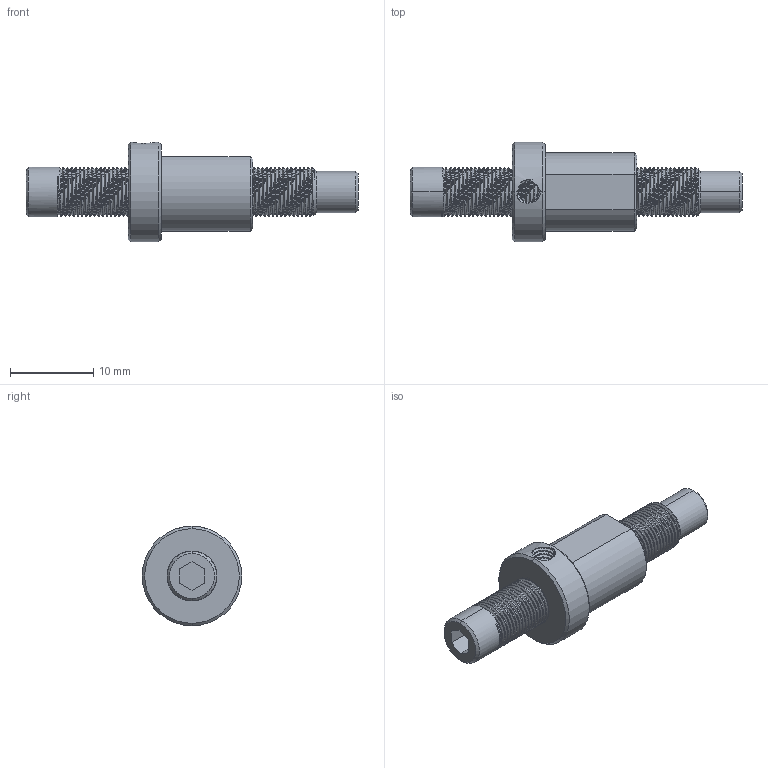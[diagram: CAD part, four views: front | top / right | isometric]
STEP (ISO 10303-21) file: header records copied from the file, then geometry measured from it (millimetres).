
FILE_DESCRIPTION((''),'2;1');
FILE_NAME('M605-L40-A_ASM','2024-11-05T17:37:06',('R&D'),(''),'CREO PARAMETRIC BY PTC INC, 2021063','CREO PARAMETRIC BY PTC INC, 2021063','');
FILE_SCHEMA(('CONFIG_CONTROL_DESIGN'));
Length unit declared in the file: millimetre
Products named in the file (3): M605-L40-A; M605-L-A; M605-L40-A_ASM
Assembly tree (2 placements, depth 2):
  M605-L40-A_ASM
    M605-L40-A
    M605-L-A
Bounding box: 40 x 12 x 12 mm (x, y, z)
Volume: 1764.8 mm3; surface area: 2212 mm2
Topology: 2 solids, 2 shells, 345 faces, 925 edges, 584 vertices
Faces by surface type: cylinder 200, bspline 120, plane 14, cone 11
Entity records: 31853 total; most frequent: CARTESIAN_POINT 24739, ORIENTED_EDGE 1850, EDGE_CURVE 925, DIRECTION 809, B_SPLINE_CURVE_WITH_KNOTS 602, VERTEX_POINT 584, EDGE_LOOP 349, FACE_OUTER_BOUND 345
